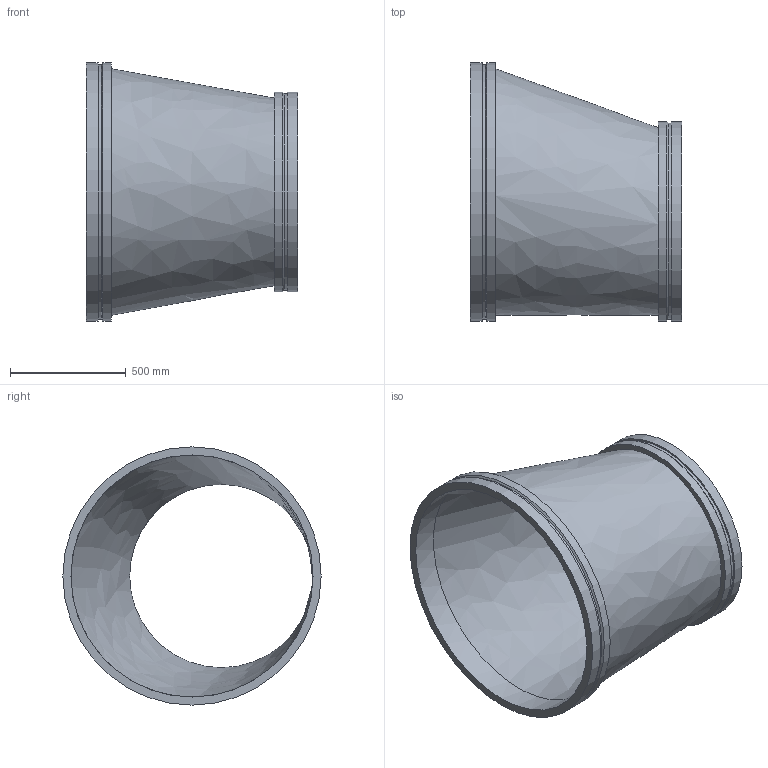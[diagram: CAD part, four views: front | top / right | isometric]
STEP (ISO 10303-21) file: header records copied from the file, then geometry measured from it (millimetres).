
FILE_DESCRIPTION(/* description */ ('VIC REDUCER ECCENTRIC No W51-VR','CAx-IF Rec.Pracs.---Representation and Presentation of Product Manufacturing Information (PMI)---4.0---2014-10-13'),/* implementation_level */ '2;1');
FILE_NAME(/* name */ 'C:\Users\kkamble\AppData\Roaming\Autodesk\ApplicationPlugins\Back Up\Victaulic_Vic-Ring_Reducer Eccentric_No W51 VR (AGR)\Victaulic_Vic-Ring_Reducer Eccentric_No W51 VR (AGR)_42.0x32.0 (1050x800).stp',/* time_stamp */ '2020-09-10T11:51:10+05:00',/* author */ ('CONSTRUCTION PIPING SERVICES'),/* organization */ ('Victaulic'),/* preprocessor_version */ 'ST-DEVELOPER v17.2',/* originating_system */ 'Autodesk Inventor 2019',/* authorisation */ '');
FILE_SCHEMA (('AP242_MANAGED_MODEL_BASED_3D_ENGINEERING_MIM_LF { 1 0 10303 442 1 1 4 }'));
Length unit declared in the file: inch
Products named in the file (1): W51 VR-42.0x32.0
Bounding box: 914.4 x 1117.6 x 1117.6 mm (x, y, z)
Volume: 40825630.8 mm3; surface area: 5912504.5 mm2
Topology: 1 solids, 1 shells, 18 faces, 49 edges, 37 vertices
Faces by surface type: cylinder 8, plane 6, cone 2, bspline 2
Full cylindrical faces by diameter (mm): 793.75 x1, 849.122 x1, 863.6 x2, 1047.75 x1, 1101.725 x1, 1117.6 x2
Entity records: 792 total; most frequent: CARTESIAN_POINT 158, DIRECTION 144, ORIENTED_EDGE 98, AXIS2_PLACEMENT_3D 67, EDGE_CURVE 49, CIRCLE 37, VERTEX_POINT 37, EDGE_LOOP 24
